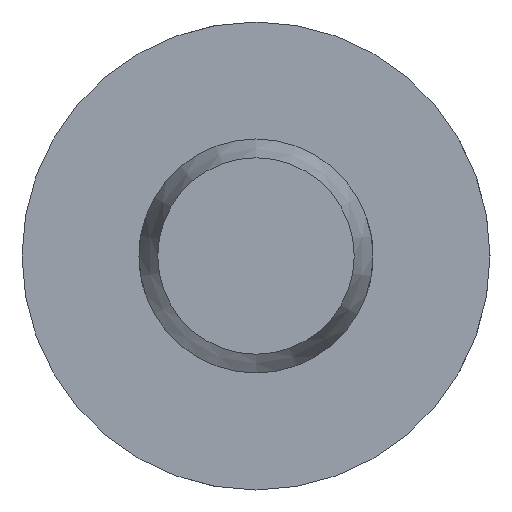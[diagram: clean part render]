
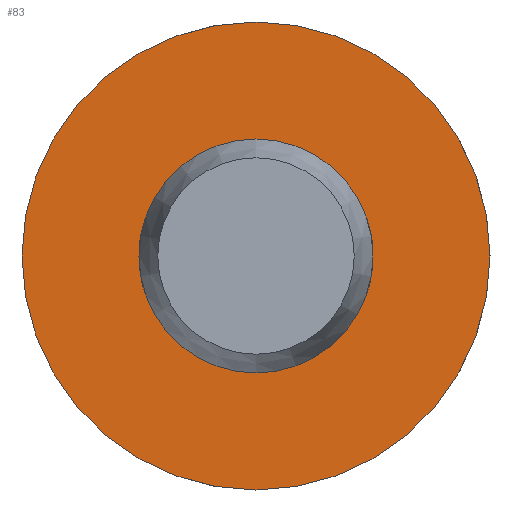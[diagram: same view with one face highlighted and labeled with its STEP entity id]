
A CAD part, left-side view. The second image highlights one B-rep face of the part: STEP entity #83.
In plain terms, the highlighted planar face has unit normal (-1, 0, 0).
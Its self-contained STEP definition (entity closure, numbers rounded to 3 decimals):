
#83 = ADVANCED_FACE( '', ( #129, #130 ), #131, .F. );
#129 = FACE_OUTER_BOUND( '', #208, .T. );
#130 = FACE_BOUND( '', #209, .T. );
#131 = PLANE( '', #210 );
#208 = EDGE_LOOP( '', ( #325 ) );
#209 = EDGE_LOOP( '', ( #326 ) );
#210 = AXIS2_PLACEMENT_3D( '', #327, #328, #329 );
#325 = ORIENTED_EDGE( '', *, *, #493, .F. );
#326 = ORIENTED_EDGE( '', *, *, #483, .T. );
#327 = CARTESIAN_POINT( '', ( 21., 2.5, 0. ) );
#328 = DIRECTION( '', ( 1., 0., 0. ) );
#329 = DIRECTION( '', ( 0., 0., -1. ) );
#483 = EDGE_CURVE( '', #554, #554, #555, .T. );
#493 = EDGE_CURVE( '', #572, #572, #573, .T. );
#554 = VERTEX_POINT( '', #741 );
#555 = CIRCLE( '', #742, 2.5 );
#572 = VERTEX_POINT( '', #842 );
#573 = CIRCLE( '', #843, 5. );
#741 = CARTESIAN_POINT( '', ( 21., 0., -2.5 ) );
#742 = AXIS2_PLACEMENT_3D( '', #906, #907, #908 );
#842 = CARTESIAN_POINT( '', ( 21., 0., -5. ) );
#843 = AXIS2_PLACEMENT_3D( '', #927, #928, #929 );
#906 = CARTESIAN_POINT( '', ( 21., 0., 0. ) );
#907 = DIRECTION( '', ( 1., 0., 0. ) );
#908 = DIRECTION( '', ( 0., 0., -1. ) );
#927 = CARTESIAN_POINT( '', ( 21., 0., 0. ) );
#928 = DIRECTION( '', ( 1., 0., 0. ) );
#929 = DIRECTION( '', ( 0., 0., -1. ) );
